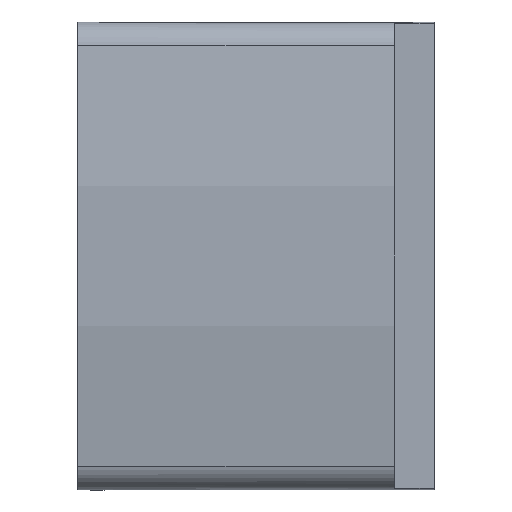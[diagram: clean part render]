
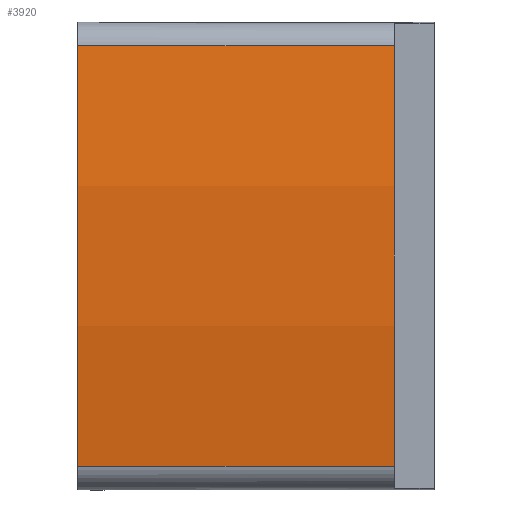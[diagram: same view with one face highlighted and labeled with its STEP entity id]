
A CAD part, front view. The second image highlights one B-rep face of the part: STEP entity #3920.
In plain terms, the highlighted cylindrical face has radius 450 mm (diameter 900 mm), a partial arc.
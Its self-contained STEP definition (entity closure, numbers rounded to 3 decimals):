
#200=LINE('',#6003,#547);
#269=LINE('',#6223,#616);
#547=VECTOR('',#4773,1000.);
#616=VECTOR('',#4992,1000.);
#908=CYLINDRICAL_SURFACE('',#4290,450.);
#994=FACE_OUTER_BOUND('',#1271,.T.);
#1271=EDGE_LOOP('',(#2936,#2937,#2938,#2939));
#1547=CIRCLE('',#4212,450.);
#1588=CIRCLE('',#4289,450.);
#1754=VERTEX_POINT('',#5999);
#1756=VERTEX_POINT('',#6002);
#1757=VERTEX_POINT('',#6007);
#1832=VERTEX_POINT('',#6222);
#2141=EDGE_CURVE('',#1756,#1754,#200,.T.);
#2144=EDGE_CURVE('',#1757,#1756,#1547,.T.);
#2250=EDGE_CURVE('',#1832,#1757,#269,.T.);
#2256=EDGE_CURVE('',#1832,#1754,#1588,.T.);
#2936=ORIENTED_EDGE('',*,*,#2144,.T.);
#2937=ORIENTED_EDGE('',*,*,#2141,.T.);
#2938=ORIENTED_EDGE('',*,*,#2256,.F.);
#2939=ORIENTED_EDGE('',*,*,#2250,.T.);
#3920=ADVANCED_FACE('',(#994),#908,.T.);
#4212=AXIS2_PLACEMENT_3D('',#6008,#4779,#4780);
#4289=AXIS2_PLACEMENT_3D('',#6233,#5004,#5005);
#4290=AXIS2_PLACEMENT_3D('',#6234,#5006,#5007);
#4773=DIRECTION('',(1.,0.,0.));
#4779=DIRECTION('center_axis',(1.,0.,0.));
#4780=DIRECTION('ref_axis',(0.,-1.,0.));
#4992=DIRECTION('',(-1.,0.,0.));
#5004=DIRECTION('center_axis',(1.,0.,0.));
#5005=DIRECTION('ref_axis',(0.,1.,0.));
#5006=DIRECTION('center_axis',(-1.,0.,0.));
#5007=DIRECTION('ref_axis',(0.,-1.,0.));
#5999=CARTESIAN_POINT('',(55.505,-67.969,8.364));
#6002=CARTESIAN_POINT('',(-55.495,-67.969,8.364));
#6003=CARTESIAN_POINT('',(69.505,-67.969,8.364));
#6007=CARTESIAN_POINT('',(-55.495,-67.969,155.636));
#6008=CARTESIAN_POINT('Origin',(-55.495,375.966,82.));
#6222=CARTESIAN_POINT('',(55.505,-67.969,155.636));
#6223=CARTESIAN_POINT('',(69.505,-67.969,155.636));
#6233=CARTESIAN_POINT('Origin',(55.505,375.966,82.));
#6234=CARTESIAN_POINT('Origin',(69.505,375.966,82.));
